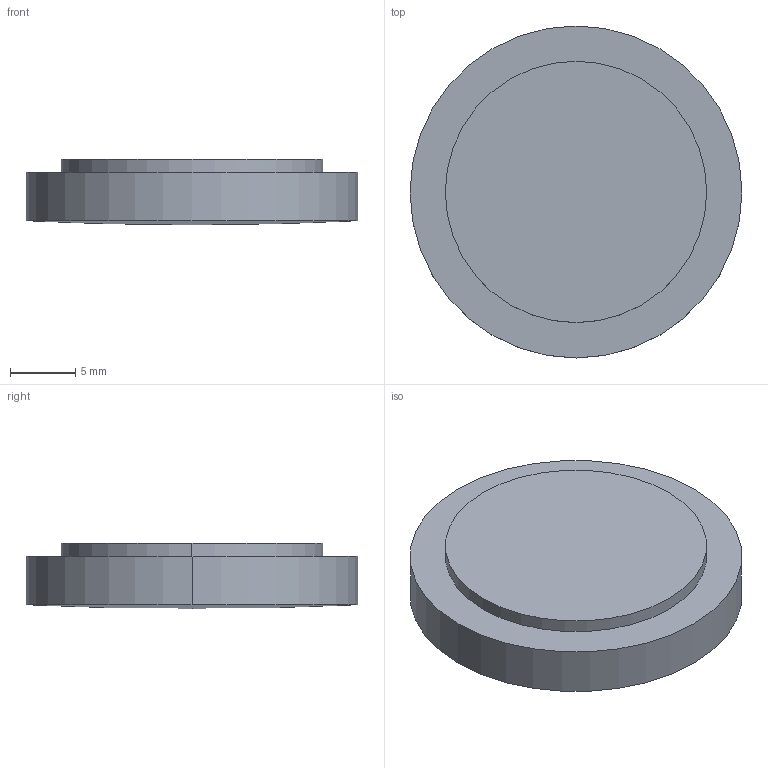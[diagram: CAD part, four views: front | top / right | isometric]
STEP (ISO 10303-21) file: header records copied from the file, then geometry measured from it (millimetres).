
FILE_DESCRIPTION(('STEP AP214'),'1');
FILE_NAME('LLQ-25610.STEP','2020-03-09T17:41:48',(' '),(' '),'Spatial InterOp 3D',' ',' ');
FILE_SCHEMA(('AUTOMOTIVE_DESIGN { 1 0 10303 214 1 1 1 1 }'));
Length unit declared in the file: millimetre
Products named in the file (1): 1
Bounding box: 25.4 x 25.4 x 5 mm (x, y, z)
Volume: 2265 mm3; surface area: 2000.1 mm2
Topology: 2 solids, 2 shells, 9 faces, 16 edges, 9 vertices
Faces by surface type: cylinder 4, plane 3, sphere 2
Entity records: 229 total; most frequent: DIRECTION 46, CARTESIAN_POINT 34, ORIENTED_EDGE 28, AXIS2_PLACEMENT_3D 21, EDGE_CURVE 14, CIRCLE 10, ADVANCED_FACE 9, FACE_OUTER_BOUND 9
